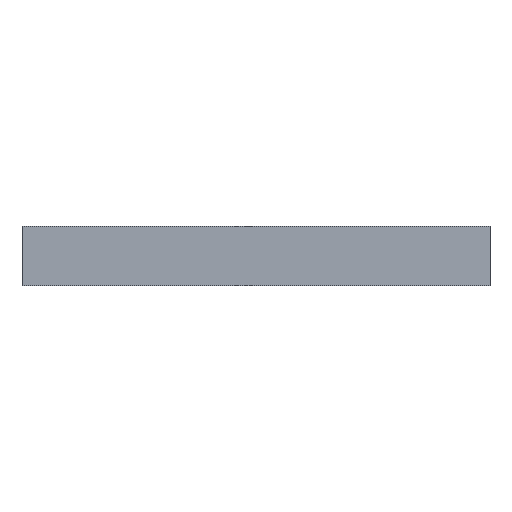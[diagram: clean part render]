
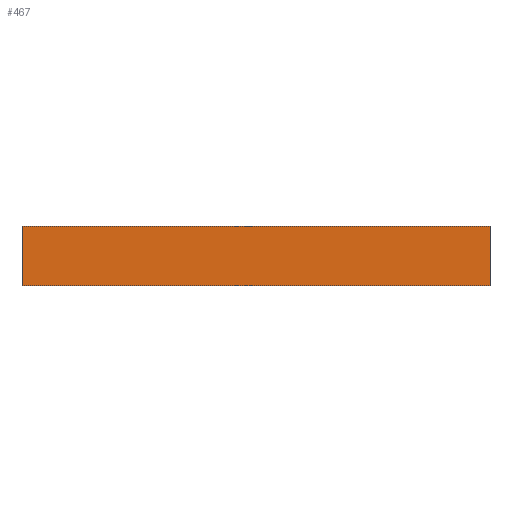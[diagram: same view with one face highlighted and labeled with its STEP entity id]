
A CAD part, front view. The second image highlights one B-rep face of the part: STEP entity #467.
In plain terms, the highlighted planar face has unit normal (0, -1, 0).
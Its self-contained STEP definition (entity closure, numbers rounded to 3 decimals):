
#33 = EDGE_CURVE ( 'NONE', #757, #818, #327, .T. ) ;
#56 = EDGE_CURVE ( 'NONE', #766, #769, #272, .T. ) ;
#76 = EDGE_CURVE ( 'NONE', #769, #818, #244, .T. ) ;
#96 = AXIS2_PLACEMENT_3D ( 'NONE', #611, #603, #602 ) ;
#98 = EDGE_CURVE ( 'NONE', #766, #757, #214, .T. ) ;
#122 = ORIENTED_EDGE ( 'NONE', *, *, #98, .T. ) ;
#124 = ORIENTED_EDGE ( 'NONE', *, *, #56, .F. ) ;
#164 = FACE_OUTER_BOUND ( 'NONE', #367, .T. ) ;
#213 = VECTOR ( 'NONE', #720, 1000. ) ;
#214 = LINE ( 'NONE', #722, #213 ) ;
#243 = VECTOR ( 'NONE', #765, 1000. ) ;
#244 = LINE ( 'NONE', #767, #243 ) ;
#270 = VECTOR ( 'NONE', #804, 1000. ) ;
#272 = LINE ( 'NONE', #806, #270 ) ;
#318 = VECTOR ( 'NONE', #609, 1000. ) ;
#327 = LINE ( 'NONE', #623, #318 ) ;
#367 = EDGE_LOOP ( 'NONE', ( #438, #439, #124, #122 ) ) ;
#438 = ORIENTED_EDGE ( 'NONE', *, *, #33, .T. ) ;
#439 = ORIENTED_EDGE ( 'NONE', *, *, #76, .F. ) ;
#467 = ADVANCED_FACE ( 'NONE', ( #164 ), #614, .F. ) ;
#508 = CARTESIAN_POINT ( 'NONE',  ( 254., 0., 0. ) ) ;
#524 = CARTESIAN_POINT ( 'NONE',  ( 254., 0., 65. ) ) ;
#525 = CARTESIAN_POINT ( 'NONE',  ( -254., 0., 65. ) ) ;
#528 = CARTESIAN_POINT ( 'NONE',  ( -254., 0., 0. ) ) ;
#602 = DIRECTION ( 'NONE',  ( -1., 0., 0. ) ) ;
#603 = DIRECTION ( 'NONE',  ( 0., 1., 0. ) ) ;
#609 = DIRECTION ( 'NONE',  ( 1., 0., 0. ) ) ;
#611 = CARTESIAN_POINT ( 'NONE',  ( -254., 0., 65. ) ) ;
#614 = PLANE ( 'NONE',  #96 ) ;
#623 = CARTESIAN_POINT ( 'NONE',  ( -254., 0., 0. ) ) ;
#720 = DIRECTION ( 'NONE',  ( 0., 0., -1. ) ) ;
#722 = CARTESIAN_POINT ( 'NONE',  ( -254., 0., 65. ) ) ;
#757 = VERTEX_POINT ( 'NONE', #528 ) ;
#765 = DIRECTION ( 'NONE',  ( 0., 0., -1. ) ) ;
#766 = VERTEX_POINT ( 'NONE', #525 ) ;
#767 = CARTESIAN_POINT ( 'NONE',  ( 254., 0., 65. ) ) ;
#769 = VERTEX_POINT ( 'NONE', #524 ) ;
#804 = DIRECTION ( 'NONE',  ( 1., 0., 0. ) ) ;
#806 = CARTESIAN_POINT ( 'NONE',  ( -254., 0., 65. ) ) ;
#818 = VERTEX_POINT ( 'NONE', #508 ) ;
